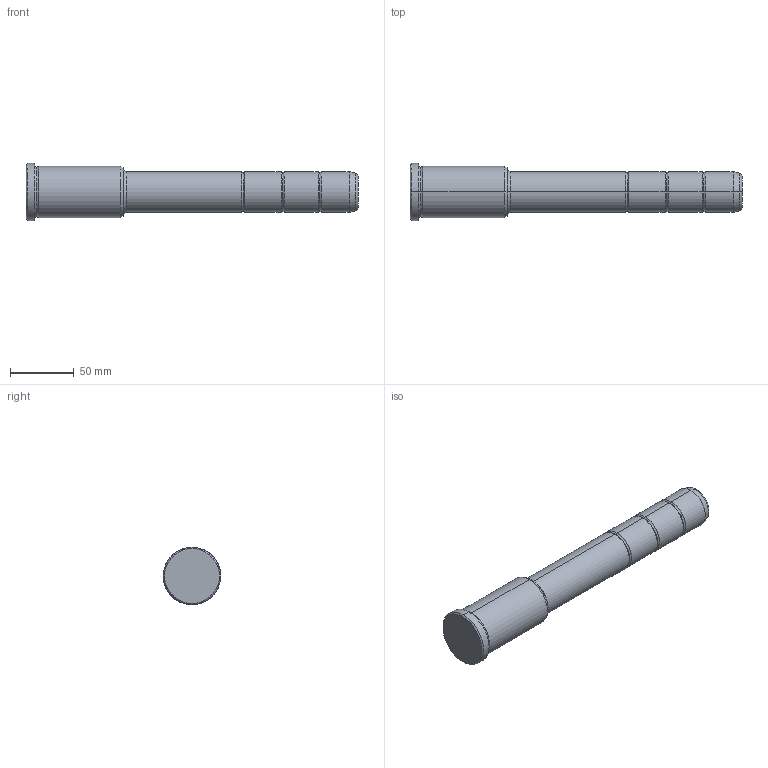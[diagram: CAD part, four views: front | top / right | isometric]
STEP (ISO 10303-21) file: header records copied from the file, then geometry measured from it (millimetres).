
FILE_DESCRIPTION(('CATIA V5 STEP Exchange'),'2;1');
FILE_NAME('C:\Users\Utente\Desktop\IO LAVORO\3D X SITO CF\X SITO\PLASTICA\351\351-32X76X260.stp','2021-09-07T13:49:51+00:00',('none'),('none'),'CATIA Version 5 Release 20 GA (IN-10)','CATIA V5 STEP AP203','none');
FILE_SCHEMA(('CONFIG_CONTROL_DESIGN'));
Length unit declared in the file: millimetre
Products named in the file (1): 351-32X76X260
Bounding box: 260 x 45 x 45 mm (x, y, z)
Volume: 244475.4 mm3; surface area: 30963.5 mm2
Topology: 1 solids, 1 shells, 42 faces, 118 edges, 80 vertices
Faces by surface type: torus 20, cylinder 12, cone 6, plane 4
Entity records: 1472 total; most frequent: CARTESIAN_POINT 353, ORIENTED_EDGE 236, DIRECTION 194, AXIS2_PLACEMENT_3D 135, EDGE_CURVE 118, CIRCLE 92, VERTEX_POINT 80, EDGE_LOOP 44
